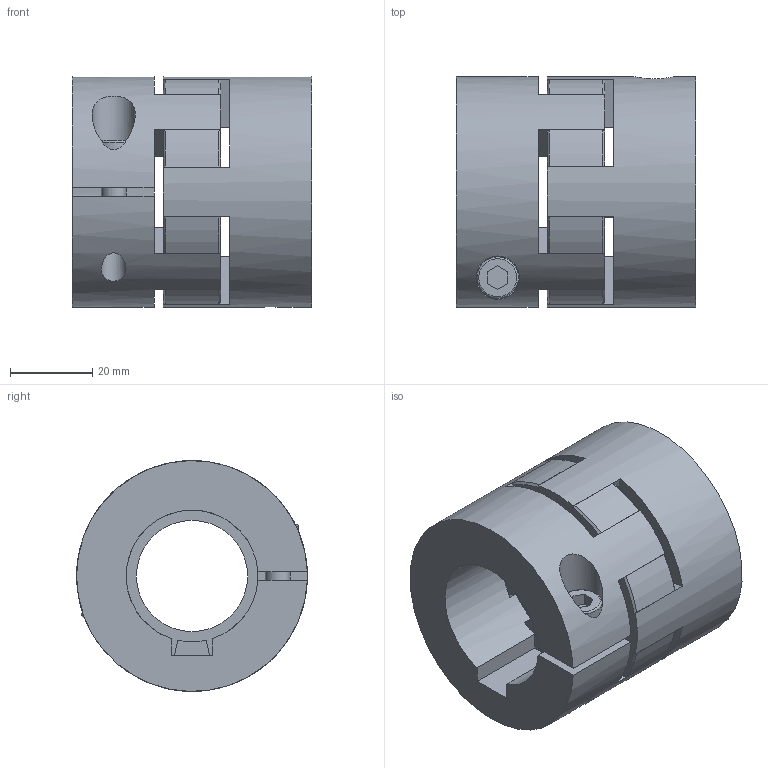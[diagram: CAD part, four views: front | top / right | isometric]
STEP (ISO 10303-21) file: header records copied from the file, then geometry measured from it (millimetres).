
FILE_DESCRIPTION(/* description */ ('STEP AP214'),/* implementation_level */ '2;1');
FILE_NAME(/* name */ 'C:\Diequa Files\DieQua Coupling\ECC\STP\ECC.60.ABC.#.#.stp',/* time_stamp */ '2018-12-07T11:21:28-06:00',/* author */ ('DiequaCAD'),/* organization */ (''),/* preprocessor_version */ 'ST-DEVELOPER v17.2',/* originating_system */ 'Autodesk Inventor 2019',/* authorisation */ ' ');
FILE_SCHEMA (('AUTOMOTIVE_DESIGN { 1 0 10303 214 3 1 1 }'));
Length unit declared in the file: millimetre
Products named in the file (4): EKL_60_A_32_PFN_32_PFN_28; 2018_11_29__15-36-46-026; 2018_11_29__15-36-46-026_1; 2018_11_29__15-36-46-026_2
Assembly tree (3 placements, depth 2):
  EKL_60_A_32_PFN_32_PFN_28
    2018_11_29__15-36-46-026
    2018_11_29__15-36-46-026_1
    2018_11_29__15-36-46-026_2
Bounding box: 58 x 55.98 x 56 mm (x, y, z)
Volume: 90336.7 mm3; surface area: 33361.3 mm2
Topology: 3 solids, 3 shells, 137 faces, 385 edges, 264 vertices
Faces by surface type: plane 86, cylinder 33, cone 16, torus 2
Full cylindrical faces by diameter (mm): 6 x4, 6.5 x2, 10 x2, 10.5 x2, 27 x1
Entity records: 4789 total; most frequent: CARTESIAN_POINT 945, DIRECTION 799, ORIENTED_EDGE 770, EDGE_CURVE 385, AXIS2_PLACEMENT_3D 278, VERTEX_POINT 264, LINE 243, VECTOR 243
